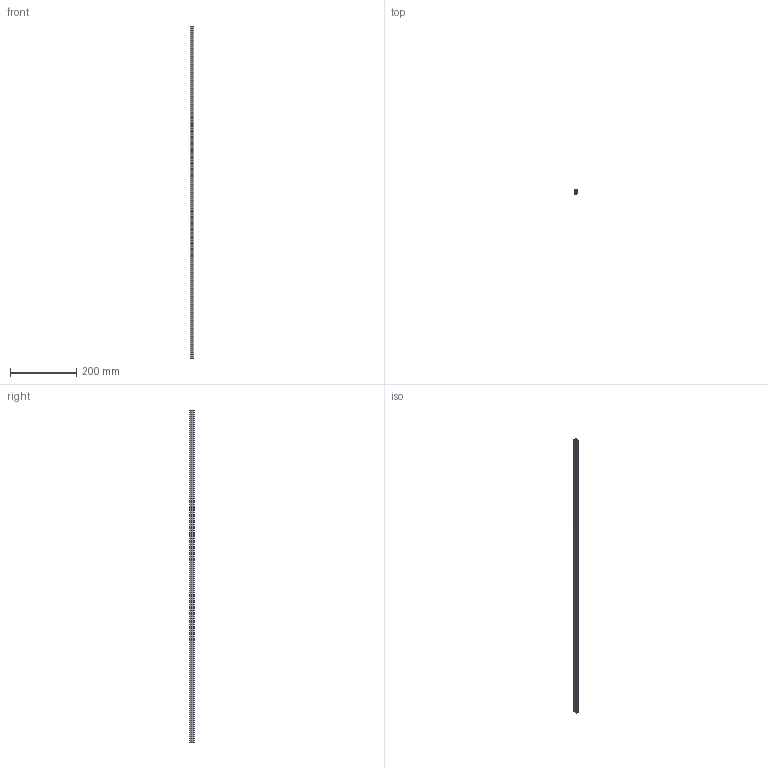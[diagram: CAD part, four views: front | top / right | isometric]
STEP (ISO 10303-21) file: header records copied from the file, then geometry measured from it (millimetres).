
FILE_DESCRIPTION (( 'STEP AP214' ), '1' );
FILE_NAME ('EBHR-13.STEP', '2016-02-03T06:49:15', ( '' ), ( '' ), 'SwSTEP 2.0', 'SolidWorks 2012', '' );
FILE_SCHEMA (( 'AUTOMOTIVE_DESIGN' ));
Length unit declared in the file: millimetre
Products named in the file (1): EBHR-13
Bounding box: 11.79 x 14.05 x 1000 mm (x, y, z)
Volume: 88393.7 mm3; surface area: 98302.7 mm2
Topology: 1 solids, 1 shells, 42 faces, 120 edges, 80 vertices
Faces by surface type: cylinder 23, plane 19
Entity records: 1428 total; most frequent: DIRECTION 252, CARTESIAN_POINT 243, ORIENTED_EDGE 240, EDGE_CURVE 120, AXIS2_PLACEMENT_3D 89, VERTEX_POINT 80, VECTOR 74, LINE 74
